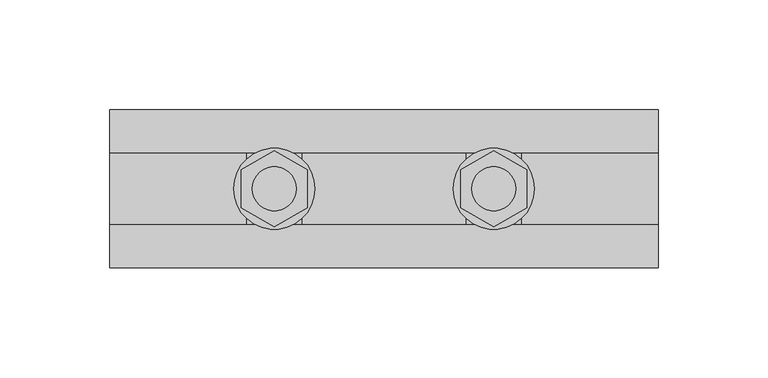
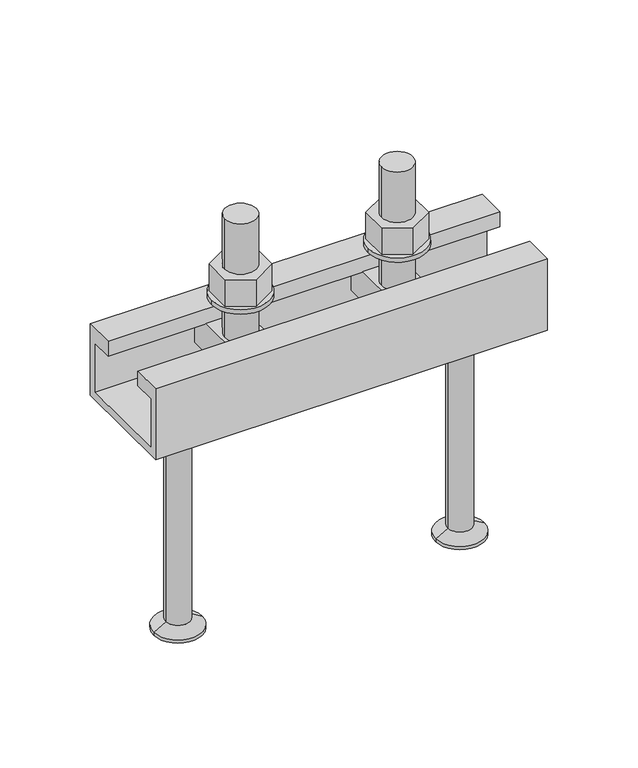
"""IFC4 building model written with IfcOpenShell, lengths in millimetres: fastener geometry, JTA-W JORDAHL® AnchorChannels : JTA-W L=250 mm."""

import ifcopenshell
import ifcopenshell.guid

model = None  # the IFC model being written
_history = None  # IfcOwnerHistory: only IFC2X3 demands one
_inside = {}  # id of a spatial element -> (the spatial element, [elements in it])
_under = {}  # id of a project, library or spatial element -> (it, [spatial elements below it])
_declared = {}  # id of a project -> (the project, [libraries it declares])
_typed = {}  # id of a type object -> (the type object, [elements of that type])
_made_of = {}  # id of a material, layer set ... -> (it, [elements and type objects made of it])


def new_model(schema):
    """Start an empty IFC model of exactly this schema.

    Asked for "IFC4X3", IfcOpenShell would pick the latest addendum, in which some entities
    have other attributes; the version numbers below select the first issue.
    IFC2X3 requires an IfcOwnerHistory on every rooted entity: one is made here for all.
    """
    global model, _history
    if schema == "IFC4X3":
        model = ifcopenshell.file(schema_version=(4, 3, 0, 0))
    else:
        model = ifcopenshell.file(schema=schema)
    _inside.clear()
    _under.clear()
    _declared.clear()
    _typed.clear()
    _made_of.clear()
    _history = None
    if model.schema == "IFC2X3":
        org = make("IfcOrganization", Name="unknown")
        user = make(
            "IfcPersonAndOrganization",
            ThePerson=make("IfcPerson", FamilyName="unknown"),
            TheOrganization=org,
        )
        app = make(
            "IfcApplication",
            ApplicationDeveloper=org,
            Version="unknown",
            ApplicationFullName="unknown",
            ApplicationIdentifier="unknown",
        )
        _history = make(
            "IfcOwnerHistory",
            OwningUser=user,
            OwningApplication=app,
            ChangeAction="ADDED",
            CreationDate=0,
        )
    return model


def make(cls, **values):
    """One entity of the class cls with the attributes given. An attribute that is None is left unset."""
    return model.create_entity(
        cls, **{name: value for name, value in values.items() if value is not None}
    )


def rooted(cls, **values):
    """An entity with a GlobalId (a new one), such as an element, a storey or a relation."""
    return make(cls, GlobalId=ifcopenshell.guid.new(), OwnerHistory=_history, **values)


def si_unit(unit_type, name, prefix=None):
    """IfcSIUnit, for example si_unit("LENGTHUNIT", "METRE", prefix="MILLI")."""
    return make("IfcSIUnit", UnitType=unit_type, Prefix=prefix, Name=name)


def assignment(units):
    """IfcUnitAssignment: the units of a project."""
    return None if units is None else make("IfcUnitAssignment", Units=units)


def point(xyz):
    """IfcCartesianPoint."""
    return None if xyz is None else make("IfcCartesianPoint", Coordinates=xyz)


def direction(xyz):
    """IfcDirection."""
    return None if xyz is None else make("IfcDirection", DirectionRatios=xyz)


def frame(location, z_axis=None, x_axis=None):
    """IfcAxis2Placement3D, a coordinate frame: its origin and axes. An axis left out is left unset."""
    return make(
        "IfcAxis2Placement3D",
        Location=point(location),
        Axis=direction(z_axis),
        RefDirection=direction(x_axis),
    )


def frame_2d(location, x_axis=None):
    """IfcAxis2Placement2D, a coordinate frame in the plane: its origin and x axis."""
    return make(
        "IfcAxis2Placement2D", Location=point(location), RefDirection=direction(x_axis)
    )


def origin():
    """The frame at (0, 0, 0) with its axes left unset."""
    return frame((0.0, 0.0, 0.0))


def place(relative_to, where):
    """IfcLocalPlacement: puts the frame where relative to a parent placement (None: the world)."""
    return make(
        "IfcLocalPlacement", PlacementRelTo=relative_to, RelativePlacement=where
    )


def context(
    kind, dimensions, precision=None, world=None, true_north=None, identifier=None
):
    """IfcGeometricRepresentationContext, for example the 3D "Model" context."""
    return make(
        "IfcGeometricRepresentationContext",
        ContextIdentifier=identifier,
        ContextType=kind,
        CoordinateSpaceDimension=dimensions,
        Precision=precision,
        WorldCoordinateSystem=world,
        TrueNorth=true_north,
    )


def project(units=None, contexts=None):
    """IfcProject with its units and contexts."""
    return rooted(
        "IfcProject",
        Name="project",
        RepresentationContexts=contexts,
        UnitsInContext=assignment(units),
    )


def spatial(cls, under=None, at=None, **own):
    """A site, building, storey or space (cls), placed at a placement, below another one or the project."""
    s = rooted(cls, ObjectPlacement=at, **own)
    if under is not None:
        _under.setdefault(under.id(), (under, []))[1].append(s)
    return s


def polyline(points):
    """IfcPolyline through the points."""
    return make("IfcPolyline", Points=[point(p) for p in points])


def circle_curve(where, radius):
    """IfcCircle in the frame where."""
    return make("IfcCircle", Position=where, Radius=radius)


def trimmed(basis, trim1, trim2, sense, master):
    """IfcTrimmedCurve: the piece of a basis curve between two trims."""
    return make(
        "IfcTrimmedCurve",
        BasisCurve=basis,
        Trim1=trim1,
        Trim2=trim2,
        SenseAgreement=sense,
        MasterRepresentation=master,
    )


def segment(curve, same_sense, transition):
    """IfcCompositeCurveSegment."""
    return make(
        "IfcCompositeCurveSegment",
        Transition=transition,
        SameSense=same_sense,
        ParentCurve=curve,
    )


def composite_curve(segments, self_intersect=None):
    """IfcCompositeCurve: segments joined end to end."""
    return make("IfcCompositeCurve", Segments=segments, SelfIntersect=self_intersect)


def outline(outer, holes=None, kind="AREA"):
    """IfcArbitraryClosedProfileDef: a profile drawn as a closed curve; with holes, ...WithVoids."""
    if holes is None:
        return make("IfcArbitraryClosedProfileDef", ProfileType=kind, OuterCurve=outer)
    return make(
        "IfcArbitraryProfileDefWithVoids",
        ProfileType=kind,
        OuterCurve=outer,
        InnerCurves=holes,
    )


def extrude(swept, where, along, depth):
    """IfcExtrudedAreaSolid: the profile swept, set in the frame where, extruded along a direction by depth."""
    return make(
        "IfcExtrudedAreaSolid",
        SweptArea=swept,
        Position=where,
        ExtrudedDirection=direction(along),
        Depth=depth,
    )


def shape(context_of_items, identifier, shape_type, items):
    """IfcShapeRepresentation: the items that make up one representation, for example the "Body"."""
    return make(
        "IfcShapeRepresentation",
        ContextOfItems=context_of_items,
        RepresentationIdentifier=identifier,
        RepresentationType=shape_type,
        Items=items,
    )


def source(mapping_origin, context_of_items, identifier, shape_type, items):
    """IfcRepresentationMap: a shape defined once, which mapped items show again and again."""
    return make(
        "IfcRepresentationMap",
        MappingOrigin=mapping_origin,
        MappedRepresentation=shape(context_of_items, identifier, shape_type, items),
    )


def transform(
    local_origin,
    x_axis=None,
    y_axis=None,
    z_axis=None,
    scale=None,
    scale2=None,
    scale3=None,
    uniform=True,
):
    """IfcCartesianTransformationOperator3D, or its non-uniform kind. x_axis, y_axis, z_axis: its Axis1, 2, 3."""
    if uniform:
        return make(
            "IfcCartesianTransformationOperator3D",
            Axis1=direction(x_axis),
            Axis2=direction(y_axis),
            LocalOrigin=point(local_origin),
            Scale=scale,
            Axis3=direction(z_axis),
        )
    return make(
        "IfcCartesianTransformationOperator3DnonUniform",
        Axis1=direction(x_axis),
        Axis2=direction(y_axis),
        LocalOrigin=point(local_origin),
        Scale=scale,
        Axis3=direction(z_axis),
        Scale2=scale2,
        Scale3=scale3,
    )


def mapped(mapping_source, mapping_target):
    """IfcMappedItem: shows the shape of a source again, moved by a transform."""
    return make(
        "IfcMappedItem", MappingSource=mapping_source, MappingTarget=mapping_target
    )


def made_of(thing, what):
    """Note that an element or type object is made of a material, layer set ...; save() writes the relation."""
    if what is not None:
        _made_of.setdefault(what.id(), (what, []))[1].append(thing)
    return thing


def element(
    cls,
    number,
    at=None,
    inside=None,
    cuts=None,
    type_object=None,
    material=None,
    context=None,
    identifier="Body",
    shape_type=None,
    held_by="IfcProductDefinitionShape",
    body=None,
    shapes=None,
    **own,
):
    """One element of the class cls, such as IfcWall. Its Tag is "e" and its number.

    at: its placement. inside: the storey or other place that contains it. cuts: it is an
    opening in that element (IfcRelVoidsElement). A single representation is given by context,
    identifier, shape_type and body (its items); several are given by shapes. held_by: the class
    of the entity that holds the representations. save() writes the other relations.
    """
    e = rooted(cls, Tag="e%d" % number, ObjectPlacement=at, **own)
    if body is not None:
        shapes = [shape(context, identifier, shape_type, body)]
    if shapes is not None:
        e.Representation = make(held_by, Representations=shapes)
    if inside is not None:
        _inside.setdefault(inside.id(), (inside, []))[1].append(e)
    if cuts is not None:
        rooted(
            "IfcRelVoidsElement", RelatingBuildingElement=cuts, RelatedOpeningElement=e
        )
    if type_object is not None:
        _typed.setdefault(type_object.id(), (type_object, []))[1].append(e)
    return made_of(e, material)


def aggregate(whole, parts):
    """IfcRelAggregates: a whole, such as a stair, and the parts it consists of."""
    return rooted("IfcRelAggregates", RelatingObject=whole, RelatedObjects=parts)


def save(model, path):
    """Write the relations noted so far, then the file.

    IfcRelAggregates (storeys below a building ...), IfcRelContainedInSpatialStructure (elements
    in a storey), IfcRelDefinesByType, IfcRelAssociatesMaterial and IfcRelDeclares: one each for
    every whole, place, type object, material and project.
    """
    for whole, parts in _under.values():
        aggregate(whole, parts)
    for where, things in _inside.values():
        rooted(
            "IfcRelContainedInSpatialStructure",
            RelatedElements=things,
            RelatingStructure=where,
        )
    for kind, things in _typed.values():
        rooted("IfcRelDefinesByType", RelatedObjects=things, RelatingType=kind)
    for what, things in _made_of.values():
        rooted("IfcRelAssociatesMaterial", RelatedObjects=things, RelatingMaterial=what)
    for by, libraries in _declared.values():
        rooted("IfcRelDeclares", RelatingContext=by, RelatedDefinitions=libraries)
    model.write(path)


def plane_surface(at):
    """IfcPlane: the flat surface through the origin of the frame at, square to its z axis."""
    return make("IfcPlane", Position=at)


def cylinder_surface(at, radius):
    """IfcCylindricalSurface: all points at the distance radius from the z axis of the frame at."""
    return make("IfcCylindricalSurface", Position=at, Radius=radius)


def revolved_surface(curve, axis_point, axis_direction):
    """IfcSurfaceOfRevolution: the curve turned about the line through axis_point along axis_direction."""
    return make(
        "IfcSurfaceOfRevolution",
        SweptCurve=make("IfcArbitraryOpenProfileDef", ProfileType="CURVE", Curve=curve),
        AxisPosition=make("IfcAxis1Placement", Location=point(axis_point), Axis=direction(axis_direction)),
    )


def advanced_brep(points, edges, surfaces, faces):
    """IfcAdvancedBrep: a solid bounded by faces that lie on surfaces and meet in shared edges.

    An edge is (start, end): straight between two places in points (the first is 0);
    or (start, end, curve); or (start, end, curve, False) where it runs against its curve.
    A face is (place in surfaces, loops), or (place, loops, False) where it looks against
    its surface's normal. A loop lists edges by number (the first is 1), with a minus sign
    where the edge is run from its end to its start. The first loop is the outer one.
    """
    corners = [point(p) for p in points]
    vertices = [make("IfcVertexPoint", VertexGeometry=c) for c in corners]
    made = []
    for start, end, *more in edges:
        made.append(
            make(
                "IfcEdgeCurve",
                EdgeStart=vertices[start],
                EdgeEnd=vertices[end],
                EdgeGeometry=more[0] if more else make("IfcPolyline", Points=[corners[start], corners[end]]),
                SameSense=more[1] if len(more) > 1 else True,
            )
        )
    hull = []
    for where, loops, *sense in faces:
        bounds = []
        for j, loop in enumerate(loops):
            ring = [make("IfcOrientedEdge", EdgeElement=made[abs(k) - 1], Orientation=k > 0) for k in loop]
            bounds.append(
                make(
                    "IfcFaceOuterBound" if j == 0 else "IfcFaceBound",
                    Bound=make("IfcEdgeLoop", EdgeList=ring),
                    Orientation=True,
                )
            )
        hull.append(make("IfcAdvancedFace", Bounds=bounds, FaceSurface=surfaces[where], SameSense=sense[0] if sense else True))
    return make("IfcAdvancedBrep", Outer=make("IfcClosedShell", CfsFaces=hull))


def fastener_35095dbe(model_context):
    return source(origin(), model_context, "Body", "SolidModel", [
        extrude(outline(polyline([(175.0, 17.3205081), (190.0, 8.660254), (190.0, -8.660254), (175.0, -17.3205081), (160.0, -8.660254), (160.0, 8.660254), (175.0, 17.3205081)]), holes=[composite_curve([segment(trimmed(circle_curve(frame_2d((175.0, 0.0)), 10.0), [point((165.0, 0.0))], [point((185.0, 0.0))], True, "CARTESIAN"), True, "CONTINUOUS"), segment(trimmed(circle_curve(frame_2d((175.0, 0.0)), 10.0), [point((185.0, 0.0))], [point((165.0, 0.0))], True, "CARTESIAN"), True, "CONTINUOUS")], self_intersect=False)]), frame((0.0, 0.0, 18.0), z_axis=(0.0, 0.0, 1.0), x_axis=(1.0, 0.0, 0.0)), (0.0, 0.0, 1.0), 18.0),
        extrude(outline(composite_curve([segment(trimmed(circle_curve(frame_2d((175.0, 0.0)), 18.5), [point((156.5, 0.0))], [point((193.5, 0.0))], False, "CARTESIAN"), True, "CONTINUOUS"), segment(trimmed(circle_curve(frame_2d((175.0, 0.0)), 18.5), [point((193.5, 0.0))], [point((156.5, 0.0))], False, "CARTESIAN"), True, "CONTINUOUS")], self_intersect=False), holes=[composite_curve([segment(trimmed(circle_curve(frame_2d((175.0, 0.0)), 10.5), [point((164.5, 0.0))], [point((185.5, 0.0))], True, "CARTESIAN"), True, "CONTINUOUS"), segment(trimmed(circle_curve(frame_2d((175.0, 0.0)), 10.5), [point((185.5, 0.0))], [point((164.5, 0.0))], True, "CARTESIAN"), True, "CONTINUOUS")], self_intersect=False)]), frame((0.0, 0.0, 15.0), z_axis=(0.0, 0.0, 1.0), x_axis=(1.0, 0.0, 0.0)), (0.0, 0.0, 1.0), 3.0),
        extrude(outline(polyline([(75.0, 17.3205081), (90.0, 8.660254), (90.0, -8.660254), (75.0, -17.3205081), (60.0, -8.660254), (60.0, 8.660254), (75.0, 17.3205081)]), holes=[composite_curve([segment(trimmed(circle_curve(frame_2d((75.0, 0.0)), 10.0), [point((65.0, 0.0))], [point((85.0, 0.0))], True, "CARTESIAN"), True, "CONTINUOUS"), segment(trimmed(circle_curve(frame_2d((75.0, 0.0)), 10.0), [point((85.0, 0.0))], [point((65.0, 0.0))], True, "CARTESIAN"), True, "CONTINUOUS")], self_intersect=False)]), frame((0.0, 0.0, 18.0), z_axis=(0.0, 0.0, 1.0), x_axis=(1.0, 0.0, 0.0)), (0.0, 0.0, 1.0), 18.0),
        extrude(outline(composite_curve([segment(trimmed(circle_curve(frame_2d((75.0, 0.0)), 18.5), [point((56.5, 0.0))], [point((93.5, 0.0))], False, "CARTESIAN"), True, "CONTINUOUS"), segment(trimmed(circle_curve(frame_2d((75.0, 0.0)), 18.5), [point((93.5, 0.0))], [point((56.5, 0.0))], False, "CARTESIAN"), True, "CONTINUOUS")], self_intersect=False), holes=[composite_curve([segment(trimmed(circle_curve(frame_2d((75.0, 0.0)), 10.5), [point((64.5, 0.0))], [point((85.5, 0.0))], True, "CARTESIAN"), True, "CONTINUOUS"), segment(trimmed(circle_curve(frame_2d((75.0, 0.0)), 10.5), [point((85.5, 0.0))], [point((64.5, 0.0))], True, "CARTESIAN"), True, "CONTINUOUS")], self_intersect=False)]), frame((0.0, 0.0, 15.0), z_axis=(0.0, 0.0, 1.0), x_axis=(1.0, 0.0, 0.0)), (0.0, 0.0, 1.0), 3.0),
        advanced_brep(
        [(187.5, 29.0, -10.0), (187.5, -29.0, -10.0), (187.5, -29.0, -30.0), (187.5, 29.0, -30.0), (162.5, 29.0, -10.0), (162.5, 29.0, -30.0), (162.5, -29.0, -30.0), (162.5, -29.0, -10.0), (185.0, 0.0, -10.0), (165.0, 0.0, -10.0), (165.0, 0.0, 70.0), (185.0, 0.0, 70.0)],
        [
            (0, 1),
            (1, 2),
            (2, 3),
            (3, 0),
            (4, 5),
            (5, 6),
            (6, 7),
            (7, 4),
            (0, 4),
            (7, 1),
            (8, 9, circle_curve(frame((175.0, 0.0, -10.0), z_axis=(0.0, 0.0, -1.0), x_axis=(1.0, 0.0, 0.0)), 10.0)),
            (9, 8, circle_curve(frame((175.0, 0.0, -10.0), z_axis=(0.0, 0.0, -1.0), x_axis=(1.0, 0.0, 0.0)), 10.0)),
            (6, 2),
            (5, 3),
            (10, 11, circle_curve(frame((175.0, 0.0, 70.0), z_axis=(0.0, 0.0, 1.0), x_axis=(1.0, 0.0, 0.0)), 10.0)),
            (11, 10, circle_curve(frame((175.0, 0.0, 70.0), z_axis=(0.0, 0.0, 1.0), x_axis=(1.0, 0.0, 0.0)), 10.0)),
            (10, 9),
            (8, 11),
        ],
        [
            plane_surface(frame((187.5, -29.0, -10.0), z_axis=(1.0, 0.0, 0.0), x_axis=(0.0, -1.0, 0.0))),
            plane_surface(frame((162.5, -29.0, -10.0), z_axis=(-1.0, 0.0, 0.0), x_axis=(0.0, 1.0, 0.0))),
            plane_surface(frame((187.5, 29.0, -10.0), z_axis=(0.0, 0.0, 1.0), x_axis=(-1.0, 0.0, 0.0))),
            plane_surface(frame((187.5, -29.0, -10.0), z_axis=(0.0, -1.0, 0.0), x_axis=(-1.0, 0.0, 0.0))),
            plane_surface(frame((187.5, -29.0, -30.0), z_axis=(0.0, 0.0, -1.0), x_axis=(-1.0, 0.0, 0.0))),
            plane_surface(frame((187.5, 29.0, -30.0), z_axis=(0.0, 1.0, 0.0), x_axis=(-1.0, 0.0, 0.0))),
            plane_surface(frame((185.0, 0.0, 70.0), z_axis=(0.0, 0.0, 1.0), x_axis=(0.0, 1.0, 0.0))),
            cylinder_surface(frame((175.0, 0.0, -10.0), z_axis=(0.0, 0.0, 1.0), x_axis=(1.0, 0.0, 0.0)), 10.0),
        ],
        [
            (0, [[1, 2, 3, 4]]),
            (1, [[5, 6, 7, 8]]),
            (2, [[-1, 9, -8, 10], [11, 12]]),
            (3, [[-2, -10, -7, 13]]),
            (4, [[-3, -13, -6, 14]]),
            (5, [[-4, -14, -5, -9]]),
            (6, [[15, 16]]),
            (7, [[-15, 17, -11, 18]]),
            (7, [[-16, -18, -12, -17]]),
        ],
    ),
        advanced_brep(
        [(87.5, 29.0, -10.0), (87.5, -29.0, -10.0), (87.5, -29.0, -30.0), (87.5, 29.0, -30.0), (62.5, 29.0, -10.0), (62.5, 29.0, -30.0), (62.5, -29.0, -30.0), (62.5, -29.0, -10.0), (85.0, 0.0, -10.0), (65.0, 0.0, -10.0), (65.0, 0.0, 70.0), (85.0, 0.0, 70.0)],
        [
            (0, 1),
            (1, 2),
            (2, 3),
            (3, 0),
            (4, 5),
            (5, 6),
            (6, 7),
            (7, 4),
            (0, 4),
            (7, 1),
            (8, 9, circle_curve(frame((75.0, 0.0, -10.0), z_axis=(0.0, 0.0, -1.0), x_axis=(1.0, 0.0, 0.0)), 10.0)),
            (9, 8, circle_curve(frame((75.0, 0.0, -10.0), z_axis=(0.0, 0.0, -1.0), x_axis=(1.0, 0.0, 0.0)), 10.0)),
            (6, 2),
            (5, 3),
            (10, 11, circle_curve(frame((75.0, 0.0, 70.0), z_axis=(0.0, 0.0, 1.0), x_axis=(1.0, 0.0, 0.0)), 10.0)),
            (11, 10, circle_curve(frame((75.0, 0.0, 70.0), z_axis=(0.0, 0.0, 1.0), x_axis=(1.0, 0.0, 0.0)), 10.0)),
            (10, 9),
            (8, 11),
        ],
        [
            plane_surface(frame((87.5, -29.0, -10.0), z_axis=(1.0, 0.0, 0.0), x_axis=(0.0, -1.0, 0.0))),
            plane_surface(frame((62.5, -29.0, -10.0), z_axis=(-1.0, 0.0, 0.0), x_axis=(0.0, 1.0, 0.0))),
            plane_surface(frame((87.5, 29.0, -10.0), z_axis=(0.0, 0.0, 1.0), x_axis=(-1.0, 0.0, 0.0))),
            plane_surface(frame((87.5, -29.0, -10.0), z_axis=(0.0, -1.0, 0.0), x_axis=(-1.0, 0.0, 0.0))),
            plane_surface(frame((87.5, -29.0, -30.0), z_axis=(0.0, 0.0, -1.0), x_axis=(-1.0, 0.0, 0.0))),
            plane_surface(frame((87.5, 29.0, -30.0), z_axis=(0.0, 1.0, 0.0), x_axis=(-1.0, 0.0, 0.0))),
            plane_surface(frame((85.0, 0.0, 70.0), z_axis=(0.0, 0.0, 1.0), x_axis=(0.0, 1.0, 0.0))),
            cylinder_surface(frame((75.0, 0.0, -10.0), z_axis=(0.0, 0.0, 1.0), x_axis=(1.0, 0.0, 0.0)), 10.0),
        ],
        [
            (0, [[1, 2, 3, 4]]),
            (1, [[5, 6, 7, 8]]),
            (2, [[-1, 9, -8, 10], [11, 12]]),
            (3, [[-2, -10, -7, 13]]),
            (4, [[-3, -13, -6, 14]]),
            (5, [[-4, -14, -5, -9]]),
            (6, [[15, 16]]),
            (7, [[-15, 17, -11, 18]]),
            (7, [[-16, -18, -12, -17]]),
        ],
    ),
        advanced_brep(
        [(215.0, 0.0, -48.0), (238.0, 0.0, -48.0), (192.0, 0.0, -48.0), (199.5, 0.0, -195.0), (230.5, 0.0, -195.0), (215.0, 0.0, -195.0), (199.5, 0.0, -193.0), (230.5, 0.0, -193.0), (207.2, 0.0, -188.5544029), (222.8, 0.0, -188.5544029), (207.2, 0.0, -52.0), (222.8, 0.0, -52.0)],
        [
            (0, 1),
            (1, 2, circle_curve(frame((215.0, 0.0, -48.0), z_axis=(0.0, 0.0, 1.0), x_axis=(1.0, 0.0, 0.0)), 23.0)),
            (2, 0),
            (2, 1, circle_curve(frame((215.0, 0.0, -48.0), z_axis=(0.0, 0.0, 1.0), x_axis=(1.0, 0.0, 0.0)), 23.0)),
            (3, 4, circle_curve(frame((215.0, 0.0, -195.0), z_axis=(0.0, 0.0, -1.0), x_axis=(1.0, 0.0, 0.0)), 15.5)),
            (4, 5),
            (5, 3),
            (4, 3, circle_curve(frame((215.0, 0.0, -195.0), z_axis=(0.0, 0.0, -1.0), x_axis=(1.0, 0.0, 0.0)), 15.5)),
            (6, 7, circle_curve(frame((215.0, 0.0, -193.0), z_axis=(0.0, 0.0, -1.0), x_axis=(1.0, 0.0, 0.0)), 15.5)),
            (7, 4),
            (3, 6),
            (7, 6, circle_curve(frame((215.0, 0.0, -193.0), z_axis=(0.0, 0.0, -1.0), x_axis=(1.0, 0.0, 0.0)), 15.5)),
            (8, 9, circle_curve(frame((215.0, 0.0, -188.5544029), z_axis=(0.0, 0.0, -1.0), x_axis=(1.0, 0.0, 0.0)), 7.8)),
            (9, 7),
            (6, 8),
            (9, 8, circle_curve(frame((215.0, 0.0, -188.5544029), z_axis=(0.0, 0.0, -1.0), x_axis=(1.0, 0.0, 0.0)), 7.8)),
            (10, 11, circle_curve(frame((215.0, 0.0, -52.0), z_axis=(0.0, 0.0, -1.0), x_axis=(1.0, 0.0, 0.0)), 7.8)),
            (11, 9),
            (8, 10),
            (11, 10, circle_curve(frame((215.0, 0.0, -52.0), z_axis=(0.0, 0.0, -1.0), x_axis=(1.0, 0.0, 0.0)), 7.8)),
            (1, 11),
            (10, 2),
        ],
        [
            plane_surface(frame((215.0, 0.0, -48.0), z_axis=(0.0, 0.0, 1.0), x_axis=(1.0, 0.0, 0.0))),
            plane_surface(frame((215.0, 0.0, -195.0), z_axis=(0.0, 0.0, -1.0), x_axis=(1.0, 0.0, 0.0))),
            cylinder_surface(frame((215.0, 0.0, 2361.3150031), z_axis=(0.0, 0.0, 1.0), x_axis=(1.0, 0.0, 0.0)), 15.5),
            revolved_surface(polyline([(230.5, 0.0, -193.0), (222.8, 0.0, -188.5544029)]), (215.0, 0.0, 2361.3150031), (0.0, 0.0, 1.0)),
            cylinder_surface(frame((215.0, 0.0, 2361.3150031), z_axis=(0.0, 0.0, 1.0), x_axis=(1.0, 0.0, 0.0)), 7.8),
            revolved_surface(polyline([(222.8, 0.0, -52.0), (238.0, 0.0, -48.0)]), (215.0, 0.0, 2361.3150031), (0.0, 0.0, 1.0)),
        ],
        [
            (0, [[1, 2, 3]]),
            (0, [[-3, 4, -1]]),
            (1, [[5, 6, 7]]),
            (1, [[8, -7, -6]]),
            (2, [[9, 10, -5, 11]]),
            (2, [[12, -11, -8, -10]]),
            (3, [[13, 14, -9, 15]]),
            (3, [[16, -15, -12, -14]]),
            (4, [[17, 18, -13, 19]]),
            (4, [[20, -19, -16, -18]]),
            (5, [[-2, 21, -17, 22]]),
            (5, [[-4, -22, -20, -21]]),
        ],
    ),
        advanced_brep(
        [(35.0, 0.0, -48.0), (58.0, 0.0, -48.0), (12.0, 0.0, -48.0), (19.5, 0.0, -195.0), (50.5, 0.0, -195.0), (35.0, 0.0, -195.0), (19.5, 0.0, -193.0), (50.5, 0.0, -193.0), (27.2, 0.0, -188.5544029), (42.8, 0.0, -188.5544029), (27.2, 0.0, -52.0), (42.8, 0.0, -52.0)],
        [
            (0, 1),
            (1, 2, circle_curve(frame((35.0, 0.0, -48.0), z_axis=(0.0, 0.0, 1.0), x_axis=(1.0, 0.0, 0.0)), 23.0)),
            (2, 0),
            (2, 1, circle_curve(frame((35.0, 0.0, -48.0), z_axis=(0.0, 0.0, 1.0), x_axis=(1.0, 0.0, 0.0)), 23.0)),
            (3, 4, circle_curve(frame((35.0, 0.0, -195.0), z_axis=(0.0, 0.0, -1.0), x_axis=(1.0, 0.0, 0.0)), 15.5)),
            (4, 5),
            (5, 3),
            (4, 3, circle_curve(frame((35.0, 0.0, -195.0), z_axis=(0.0, 0.0, -1.0), x_axis=(1.0, 0.0, 0.0)), 15.5)),
            (6, 7, circle_curve(frame((35.0, 0.0, -193.0), z_axis=(0.0, 0.0, -1.0), x_axis=(1.0, 0.0, 0.0)), 15.5)),
            (7, 4),
            (3, 6),
            (7, 6, circle_curve(frame((35.0, 0.0, -193.0), z_axis=(0.0, 0.0, -1.0), x_axis=(1.0, 0.0, 0.0)), 15.5)),
            (8, 9, circle_curve(frame((35.0, 0.0, -188.5544029), z_axis=(0.0, 0.0, -1.0), x_axis=(1.0, 0.0, 0.0)), 7.8)),
            (9, 7),
            (6, 8),
            (9, 8, circle_curve(frame((35.0, 0.0, -188.5544029), z_axis=(0.0, 0.0, -1.0), x_axis=(1.0, 0.0, 0.0)), 7.8)),
            (10, 11, circle_curve(frame((35.0, 0.0, -52.0), z_axis=(0.0, 0.0, -1.0), x_axis=(1.0, 0.0, 0.0)), 7.8)),
            (11, 9),
            (8, 10),
            (11, 10, circle_curve(frame((35.0, 0.0, -52.0), z_axis=(0.0, 0.0, -1.0), x_axis=(1.0, 0.0, 0.0)), 7.8)),
            (1, 11),
            (10, 2),
        ],
        [
            plane_surface(frame((35.0, 0.0, -48.0), z_axis=(0.0, 0.0, 1.0), x_axis=(1.0, 0.0, 0.0))),
            plane_surface(frame((35.0, 0.0, -195.0), z_axis=(0.0, 0.0, -1.0), x_axis=(1.0, 0.0, 0.0))),
            cylinder_surface(frame((35.0, 0.0, 2361.3150031), z_axis=(0.0, 0.0, 1.0), x_axis=(1.0, 0.0, 0.0)), 15.5),
            revolved_surface(polyline([(50.5, 0.0, -193.0), (42.8, 0.0, -188.5544029)]), (35.0, 0.0, 2361.3150031), (0.0, 0.0, 1.0)),
            cylinder_surface(frame((35.0, 0.0, 2361.3150031), z_axis=(0.0, 0.0, 1.0), x_axis=(1.0, 0.0, 0.0)), 7.8),
            revolved_surface(polyline([(42.8, 0.0, -52.0), (58.0, 0.0, -48.0)]), (35.0, 0.0, 2361.3150031), (0.0, 0.0, 1.0)),
        ],
        [
            (0, [[1, 2, 3]]),
            (0, [[-3, 4, -1]]),
            (1, [[5, 6, 7]]),
            (1, [[8, -7, -6]]),
            (2, [[9, 10, -5, 11]]),
            (2, [[12, -11, -8, -10]]),
            (3, [[13, 14, -9, 15]]),
            (3, [[16, -15, -12, -14]]),
            (4, [[17, 18, -13, 19]]),
            (4, [[20, -19, -16, -18]]),
            (5, [[-2, 21, -17, 22]]),
            (5, [[-4, -22, -20, -21]]),
        ],
    ),
        extrude(outline(polyline([(36.0, 0.0), (36.0, -48.0), (-36.0, -48.0), (-36.0, 0.0), (-16.5, 0.0), (-16.5, -10.0), (-31.0, -10.0), (-31.0, -43.0), (31.0, -43.0), (31.0, -10.0), (16.5, -10.0), (16.5, 0.0), (36.0, 0.0)])), frame((0.0, 0.0, 0.0), z_axis=(1.0, 0.0, 0.0), x_axis=(0.0, 1.0, 0.0)), (0.0, 0.0, 1.0), 250.0),
    ])


if __name__ == "__main__":
    model = new_model("IFC4")
    model_context = context("Model", 3, world=origin())
    ifc_project = project(units=[si_unit("LENGTHUNIT", "METRE", prefix="MILLI")], contexts=[model_context])
    site = spatial("IfcSite", under=ifc_project)
    building = spatial("IfcBuilding", under=site)
    placement = place(None, origin())
    fastener_shape = fastener_35095dbe(model_context)
    element("IfcFastener", 1, ObjectType="JTA-W JORDAHL® AnchorChannels : JTA-W L=250 mm", at=placement, inside=building, context=model_context, shape_type="MappedRepresentation", body=[
        mapped(fastener_shape, transform((0.0, 0.0, 0.0), x_axis=(1.0, 0.0, 0.0), y_axis=(0.0, 1.0, 0.0), z_axis=(0.0, 0.0, 1.0))),
    ])
    save(model, "model.ifc")
